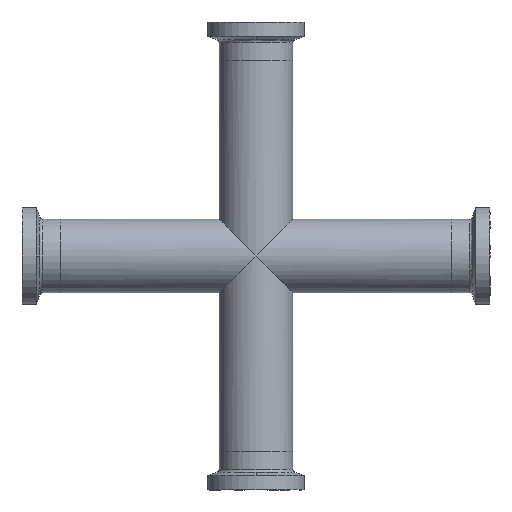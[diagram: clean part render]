
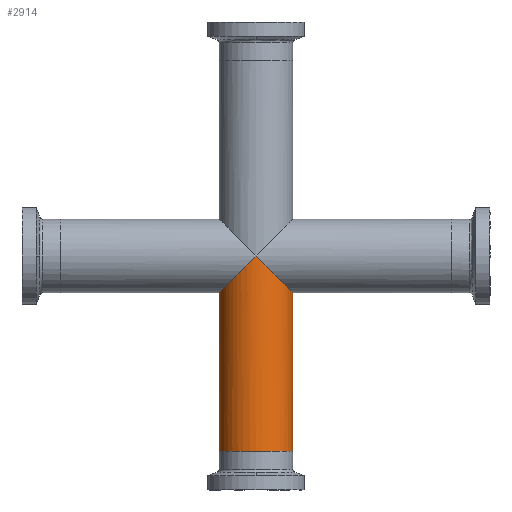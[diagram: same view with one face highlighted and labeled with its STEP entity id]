
A CAD part, front view. The second image highlights one B-rep face of the part: STEP entity #2914.
In plain terms, the highlighted cylindrical face has radius 9.525 mm (diameter 19.05 mm), a partial arc.
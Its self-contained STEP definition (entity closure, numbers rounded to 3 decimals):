
#56 = ORIENTED_EDGE ( 'NONE', *, *, #1206, .T. ) ;
#260 = CARTESIAN_POINT ( 'NONE',  ( -9.525, 0., -50.325 ) ) ;
#296 = CARTESIAN_POINT ( 'NONE',  ( -9.525, 0., -9.525 ) ) ;
#310 = VERTEX_POINT ( 'NONE', #1904 ) ;
#477 = VERTEX_POINT ( 'NONE', #296 ) ;
#535 = CARTESIAN_POINT ( 'NONE',  ( 0., 0., -50.325 ) ) ;
#560 = VECTOR ( 'NONE', #1122, 1000. ) ;
#679 = CYLINDRICAL_SURFACE ( 'NONE', #932, 9.525 ) ;
#743 = ORIENTED_EDGE ( 'NONE', *, *, #3735, .T. ) ;
#823 = DIRECTION ( 'NONE',  ( 0., 0., 1. ) ) ;
#838 = CARTESIAN_POINT ( 'NONE',  ( 0., -9.525, 0. ) ) ;
#859 = VECTOR ( 'NONE', #3359, 1000. ) ;
#932 = AXIS2_PLACEMENT_3D ( 'NONE', #535, #823, #1982 ) ;
#984 = CARTESIAN_POINT ( 'NONE',  ( 9.525, 0., -50.325 ) ) ;
#1027 = EDGE_CURVE ( 'NONE', #1969, #1342, #3026, .T. ) ;
#1122 = DIRECTION ( 'NONE',  ( 0., 0., 1. ) ) ;
#1206 = EDGE_CURVE ( 'NONE', #310, #2319, #3750, .T. ) ;
#1293 = CARTESIAN_POINT ( 'NONE',  ( -9.525, 0., -50.325 ) ) ;
#1342 = VERTEX_POINT ( 'NONE', #984 ) ;
#1344 = LINE ( 'NONE', #1293, #560 ) ;
#1385 = CARTESIAN_POINT ( 'NONE',  ( -9.525, -5.58, -9.525 ) ) ;
#1541 = EDGE_CURVE ( 'NONE', #1969, #477, #1344, .T. ) ;
#1542 = FACE_OUTER_BOUND ( 'NONE', #2606, .T. ) ;
#1602 = CARTESIAN_POINT ( 'NONE',  ( 9.525, 0., -50.325 ) ) ;
#1625 = LINE ( 'NONE', #1602, #859 ) ;
#1904 = CARTESIAN_POINT ( 'NONE',  ( 9.525, 0., -9.525 ) ) ;
#1945 = DIRECTION ( 'NONE',  ( 1., 0., 0. ) ) ;
#1959 = DIRECTION ( 'NONE',  ( 0., 0., 1. ) ) ;
#1969 = VERTEX_POINT ( 'NONE', #260 ) ;
#1982 = DIRECTION ( 'NONE',  ( 1., 0., 0. ) ) ;
#1996 = CARTESIAN_POINT ( 'NONE',  ( 0., 0., -50.325 ) ) ;
#2146 = CARTESIAN_POINT ( 'NONE',  ( 0., -9.525, 0. ) ) ;
#2302 = CARTESIAN_POINT ( 'NONE',  ( -9.525, 0., -9.525 ) ) ;
#2319 = VERTEX_POINT ( 'NONE', #2146 ) ;
#2601 = CARTESIAN_POINT ( 'NONE',  ( -5.58, -9.525, -5.58 ) ) ;
#2606 = EDGE_LOOP ( 'NONE', ( #3685, #2720, #743, #56, #2773 ) ) ;
#2720 = ORIENTED_EDGE ( 'NONE', *, *, #1027, .T. ) ;
#2773 = ORIENTED_EDGE ( 'NONE', *, *, #2932, .F. ) ;
#2914 = ADVANCED_FACE ( 'NONE', ( #1542 ), #679, .T. ) ;
#2916 =( BOUNDED_CURVE ( )  B_SPLINE_CURVE ( 3, ( #2302, #1385, #2601, #838 ),
 .UNSPECIFIED., .F., .F. ) 
 B_SPLINE_CURVE_WITH_KNOTS ( ( 4, 4 ),
 ( 3.142, 4.712 ),
 .UNSPECIFIED. ) 
 CURVE ( )  GEOMETRIC_REPRESENTATION_ITEM ( )  RATIONAL_B_SPLINE_CURVE ( ( 1., 0.805, 0.805, 1. ) ) 
 REPRESENTATION_ITEM ( '' )  );
#2932 = EDGE_CURVE ( 'NONE', #477, #2319, #2916, .T. ) ;
#2955 = AXIS2_PLACEMENT_3D ( 'NONE', #1996, #1959, #1945 ) ;
#2980 = CARTESIAN_POINT ( 'NONE',  ( 9.525, 0., -9.525 ) ) ;
#3017 = CARTESIAN_POINT ( 'NONE',  ( 9.525, -5.58, -9.525 ) ) ;
#3026 = CIRCLE ( 'NONE', #2955, 9.525 ) ;
#3085 = CARTESIAN_POINT ( 'NONE',  ( 0., -9.525, 0. ) ) ;
#3121 = CARTESIAN_POINT ( 'NONE',  ( 5.58, -9.525, -5.58 ) ) ;
#3359 = DIRECTION ( 'NONE',  ( 0., 0., 1. ) ) ;
#3685 = ORIENTED_EDGE ( 'NONE', *, *, #1541, .F. ) ;
#3735 = EDGE_CURVE ( 'NONE', #1342, #310, #1625, .T. ) ;
#3750 =( BOUNDED_CURVE ( )  B_SPLINE_CURVE ( 3, ( #2980, #3017, #3121, #3085 ),
 .UNSPECIFIED., .F., .F. ) 
 B_SPLINE_CURVE_WITH_KNOTS ( ( 4, 4 ),
 ( 3.142, 4.712 ),
 .UNSPECIFIED. ) 
 CURVE ( )  GEOMETRIC_REPRESENTATION_ITEM ( )  RATIONAL_B_SPLINE_CURVE ( ( 1., 0.805, 0.805, 1. ) ) 
 REPRESENTATION_ITEM ( '' )  );
